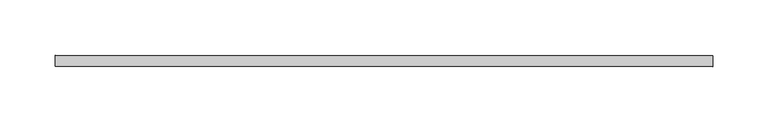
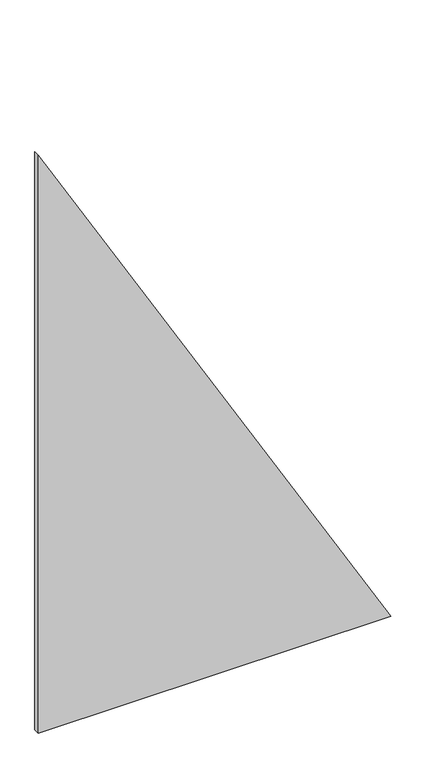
"""IFC4 building model written with IfcOpenShell, lengths in millimetres: plate geometry, 系統嵌板 : 玻璃 1.0cm."""

from ifc_helpers import new_model, si_unit, frame, origin, place, context, project, spatial, polyline, outline, extrude, source, transform, mapped, element, save


def plate_0b0f9374(model_context):
    return source(origin(), model_context, "Body", "SweptSolid", [
        extrude(outline(polyline([(0.0, -297.0053838), (0.0, 297.0053838), (1028.8568297, -297.0053838), (0.0, -297.0053838)])), frame((0.0, -5.0, 0.0), z_axis=(0.0, 1.0, 0.0), x_axis=(0.0, 0.0, 1.0)), (0.0, 0.0, 1.0), 10.0),
    ])


if __name__ == "__main__":
    model = new_model("IFC4")
    model_context = context("Model", 3, world=origin())
    ifc_project = project(units=[si_unit("LENGTHUNIT", "METRE", prefix="MILLI")], contexts=[model_context])
    site = spatial("IfcSite", under=ifc_project)
    building = spatial("IfcBuilding", under=site)
    placement = place(None, origin())
    plate_shape = plate_0b0f9374(model_context)
    element("IfcPlate", 1, ObjectType="系統嵌板 : 玻璃 1.0cm", at=placement, inside=building, context=model_context, shape_type="MappedRepresentation", body=[
        mapped(plate_shape, transform((0.0, 0.0, 0.0), x_axis=(1.0, 0.0, 0.0), y_axis=(0.0, 1.0, 0.0), z_axis=(0.0, 0.0, 1.0))),
    ])
    save(model, "model.ifc")
